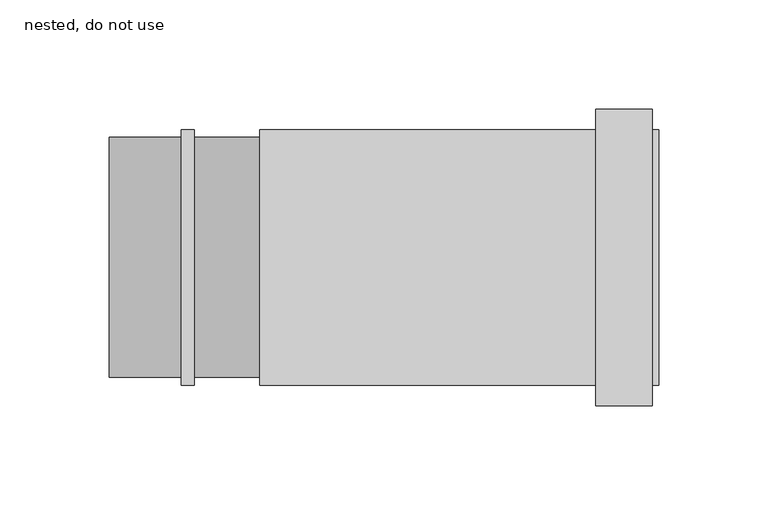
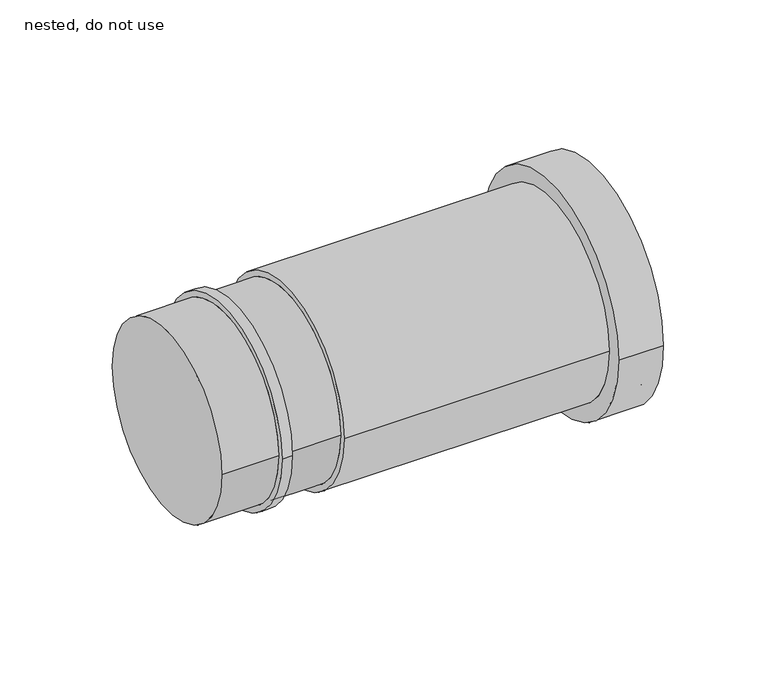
"""IFC4 building model written with IfcOpenShell, lengths in millimetres: pipe fitting geometry, ZZZ_do no use_PIF_HDPE expansion socket with anchor point -SH_Akatherm : nested, do not use."""

from ifc_helpers import new_model, si_unit, frame, origin, place, context, project, spatial, circle_curve, source, transform, mapped, element, save
from ifc_brep_helpers import plane_surface, cylinder_surface, advanced_brep


def nested_do_not_use_4ca71223(model_context):
    return source(origin(), model_context, "Body", "AdvancedBrep", [
        advanced_brep(
        [(214.5, -68.0, 0.0), (214.5, 68.0, 0.0), (214.5, 58.5, 0.0), (214.5, -58.5, 0.0), (188.5, -68.0, 0.0), (188.5, 68.0, 0.0), (188.5, -58.5, 0.0), (188.5, 58.5, 0.0), (217.5, -58.5, 0.0), (217.5, 58.5, 0.0), (34.5, -58.5, 0.0), (34.5, 58.5, 0.0), (34.5, -55.0, 0.0), (34.5, 55.0, 0.0), (-34.5, -55.0, 0.0), (-34.5, 55.0, 0.0), (4.5, -55.0, 0.0), (4.5, 55.0, 0.0), (-1.5, 55.0, 0.0), (-1.5, -55.0, 0.0), (4.5, -58.5, 0.0), (4.5, 58.5, 0.0), (-1.5, -58.5, 0.0), (-1.5, 58.5, 0.0)],
        [
            (0, 1, circle_curve(frame((214.5, 0.0, 0.0), z_axis=(1.0, 0.0, 0.0), x_axis=(0.0, 1.0, 0.0)), 68.0)),
            (1, 0, circle_curve(frame((214.5, 0.0, 0.0), z_axis=(1.0, 0.0, 0.0), x_axis=(0.0, 1.0, 0.0)), 68.0)),
            (2, 3, circle_curve(frame((214.5, 0.0, 0.0), z_axis=(-1.0, 0.0, 0.0), x_axis=(0.0, 1.0, 0.0)), 58.5)),
            (3, 2, circle_curve(frame((214.5, 0.0, 0.0), z_axis=(-1.0, 0.0, 0.0), x_axis=(0.0, 1.0, 0.0)), 58.5)),
            (4, 5, circle_curve(frame((188.5, 0.0, 0.0), z_axis=(-1.0, 0.0, 0.0), x_axis=(0.0, 1.0, 0.0)), 68.0)),
            (5, 4, circle_curve(frame((188.5, 0.0, 0.0), z_axis=(-1.0, 0.0, 0.0), x_axis=(0.0, 1.0, 0.0)), 68.0)),
            (6, 7, circle_curve(frame((188.5, 0.0, 0.0), z_axis=(1.0, 0.0, 0.0), x_axis=(0.0, 1.0, 0.0)), 58.5)),
            (7, 6, circle_curve(frame((188.5, 0.0, 0.0), z_axis=(1.0, 0.0, 0.0), x_axis=(0.0, 1.0, 0.0)), 58.5)),
            (0, 4),
            (5, 1),
            (8, 9, circle_curve(frame((217.5, 0.0, 0.0), z_axis=(1.0, 0.0, 0.0), x_axis=(0.0, 1.0, 0.0)), 58.5)),
            (9, 8, circle_curve(frame((217.5, 0.0, 0.0), z_axis=(1.0, 0.0, 0.0), x_axis=(0.0, 1.0, 0.0)), 58.5)),
            (10, 11, circle_curve(frame((34.5, 0.0, 0.0), z_axis=(-1.0, 0.0, 0.0), x_axis=(0.0, 1.0, 0.0)), 58.5)),
            (11, 10, circle_curve(frame((34.5, 0.0, 0.0), z_axis=(-1.0, 0.0, 0.0), x_axis=(0.0, 1.0, 0.0)), 58.5)),
            (12, 13, circle_curve(frame((34.5, 0.0, 0.0), z_axis=(1.0, 0.0, 0.0), x_axis=(0.0, 1.0, 0.0)), 55.0)),
            (13, 12, circle_curve(frame((34.5, 0.0, 0.0), z_axis=(1.0, 0.0, 0.0), x_axis=(0.0, 1.0, 0.0)), 55.0)),
            (8, 3),
            (2, 9),
            (11, 7),
            (6, 10),
            (14, 15, circle_curve(frame((-34.5, 0.0, 0.0), z_axis=(-1.0, 0.0, 0.0), x_axis=(0.0, 1.0, 0.0)), 55.0)),
            (15, 14, circle_curve(frame((-34.5, 0.0, 0.0), z_axis=(-1.0, 0.0, 0.0), x_axis=(0.0, 1.0, 0.0)), 55.0)),
            (12, 16),
            (16, 17, circle_curve(frame((4.5, 0.0, 0.0), z_axis=(1.0, 0.0, 0.0), x_axis=(0.0, 1.0, 0.0)), 55.0)),
            (17, 13),
            (15, 18),
            (18, 19, circle_curve(frame((-1.5, 0.0, 0.0), z_axis=(-1.0, 0.0, 0.0), x_axis=(0.0, 1.0, 0.0)), 55.0)),
            (19, 14),
            (17, 16, circle_curve(frame((4.5, 0.0, 0.0), z_axis=(1.0, 0.0, 0.0), x_axis=(0.0, 1.0, 0.0)), 55.0)),
            (19, 18, circle_curve(frame((-1.5, 0.0, 0.0), z_axis=(-1.0, 0.0, 0.0), x_axis=(0.0, 1.0, 0.0)), 55.0)),
            (20, 21, circle_curve(frame((4.5, 0.0, 0.0), z_axis=(1.0, 0.0, 0.0), x_axis=(0.0, 1.0, 0.0)), 58.5)),
            (21, 20, circle_curve(frame((4.5, 0.0, 0.0), z_axis=(1.0, 0.0, 0.0), x_axis=(0.0, 1.0, 0.0)), 58.5)),
            (22, 23, circle_curve(frame((-1.5, 0.0, 0.0), z_axis=(-1.0, 0.0, 0.0), x_axis=(0.0, 1.0, 0.0)), 58.5)),
            (23, 22, circle_curve(frame((-1.5, 0.0, 0.0), z_axis=(-1.0, 0.0, 0.0), x_axis=(0.0, 1.0, 0.0)), 58.5)),
            (20, 22),
            (23, 21),
        ],
        [
            plane_surface(frame((214.5, 68.0, 0.0), z_axis=(1.0, 0.0, 0.0), x_axis=(0.0, 0.0, 1.0))),
            plane_surface(frame((188.5, 68.0, 0.0), z_axis=(-1.0, 0.0, 0.0), x_axis=(0.0, 0.0, -1.0))),
            cylinder_surface(frame((188.5, 0.0, 0.0), z_axis=(1.0, 0.0, 0.0), x_axis=(0.0, 1.0, 0.0)), 68.0),
            plane_surface(frame((217.5, 58.5, 0.0), z_axis=(1.0, 0.0, 0.0), x_axis=(0.0, 0.0, 1.0))),
            plane_surface(frame((34.5, 58.5, 0.0), z_axis=(-1.0, 0.0, 0.0), x_axis=(0.0, 0.0, -1.0))),
            cylinder_surface(frame((34.5, 0.0, 0.0), z_axis=(1.0, 0.0, 0.0), x_axis=(0.0, 1.0, 0.0)), 58.5),
            plane_surface(frame((-34.5, 55.0, 0.0), z_axis=(-1.0, 0.0, 0.0), x_axis=(0.0, 0.0, -1.0))),
            cylinder_surface(frame((40.5, 0.0, 0.0), z_axis=(-1.0, 0.0, 0.0), x_axis=(0.0, 1.0, 0.0)), 55.0),
            plane_surface(frame((4.5, 58.5, 0.0), z_axis=(1.0, 0.0, 0.0), x_axis=(0.0, 0.0, 1.0))),
            plane_surface(frame((-1.5, 58.5, 0.0), z_axis=(-1.0, 0.0, 0.0), x_axis=(0.0, 0.0, -1.0))),
            cylinder_surface(frame((-1.5, 0.0, 0.0), z_axis=(1.0, 0.0, 0.0), x_axis=(0.0, 1.0, 0.0)), 58.5),
        ],
        [
            (0, [[1, 2], [3, 4]]),
            (1, [[5, 6], [7, 8]]),
            (2, [[-1, 9, -6, 10]]),
            (2, [[-2, -10, -5, -9]]),
            (3, [[11, 12]]),
            (4, [[13, 14], [15, 16]]),
            (5, [[-11, 17, -3, 18]]),
            (5, [[-14, 19, -7, 20]]),
            (5, [[-12, -18, -4, -17]]),
            (5, [[-13, -20, -8, -19]]),
            (6, [[21, 22]]),
            (7, [[-15, 23, 24, 25]]),
            (7, [[-22, 26, 27, 28]]),
            (7, [[-16, -25, 29, -23]]),
            (7, [[-21, -28, 30, -26]]),
            (8, [[31, 32], [-24, -29]]),
            (9, [[33, 34], [-27, -30]]),
            (10, [[-31, 35, -34, 36]]),
            (10, [[-32, -36, -33, -35]]),
        ],
    ),
    ])


if __name__ == "__main__":
    model = new_model("IFC4")
    model_context = context("Model", 3, world=origin())
    ifc_project = project(units=[si_unit("LENGTHUNIT", "METRE", prefix="MILLI")], contexts=[model_context])
    site = spatial("IfcSite", under=ifc_project)
    building = spatial("IfcBuilding", under=site)
    placement = place(None, origin())
    nested_do_not_use_shape = nested_do_not_use_4ca71223(model_context)
    element("IfcPipeFitting", 1, ObjectType="ZZZ_do no use_PIF_HDPE expansion socket with anchor point -SH_Akatherm : nested, do not use", at=placement, inside=building, context=model_context, shape_type="MappedRepresentation", body=[
        mapped(nested_do_not_use_shape, transform((0.0, 0.0, 0.0), x_axis=(1.0, 0.0, 0.0), y_axis=(0.0, 1.0, 0.0), z_axis=(0.0, 0.0, 1.0))),
    ])
    save(model, "model.ifc")
